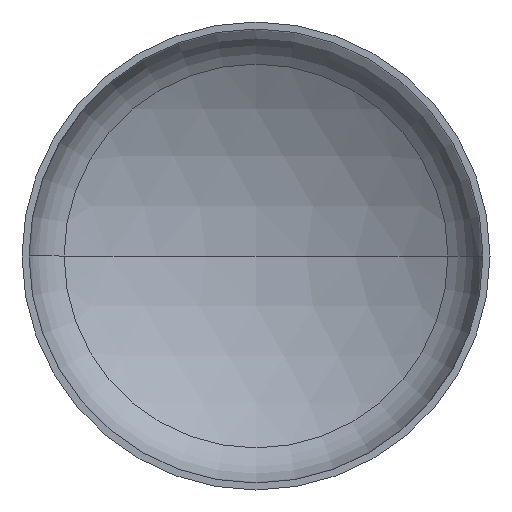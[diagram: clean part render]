
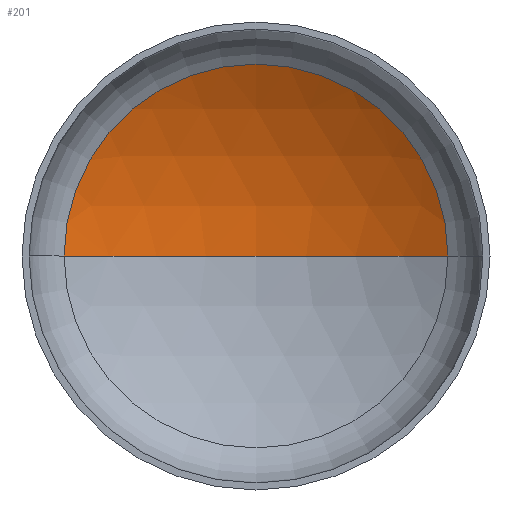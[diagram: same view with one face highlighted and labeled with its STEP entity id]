
A CAD part, front view. The second image highlights one B-rep face of the part: STEP entity #201.
In plain terms, the highlighted spherical face has radius 6400 mm.
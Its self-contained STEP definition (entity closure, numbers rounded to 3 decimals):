
#6 = VERTEX_POINT ( 'NONE', #253 ) ;
#22 = ORIENTED_EDGE ( 'NONE', *, *, #106, .T. ) ;
#24 = AXIS2_PLACEMENT_3D ( 'NONE', #267, #238, #44 ) ;
#38 = VERTEX_POINT ( 'NONE', #232 ) ;
#43 = AXIS2_PLACEMENT_3D ( 'NONE', #260, #280, #345 ) ;
#44 = DIRECTION ( 'NONE',  ( -1., 0., 0. ) ) ;
#45 = AXIS2_PLACEMENT_3D ( 'NONE', #203, #285, #76 ) ;
#53 = AXIS2_PLACEMENT_3D ( 'NONE', #213, #210, #212 ) ;
#71 = ORIENTED_EDGE ( 'NONE', *, *, #108, .F. ) ;
#76 = DIRECTION ( 'NONE',  ( -1., 0., 0. ) ) ;
#81 = VERTEX_POINT ( 'NONE', #233 ) ;
#103 = EDGE_CURVE ( 'NONE', #6, #38, #310, .T. ) ;
#106 = EDGE_CURVE ( 'NONE', #81, #6, #249, .T. ) ;
#108 = EDGE_CURVE ( 'NONE', #81, #38, #182, .T. ) ;
#139 = EDGE_LOOP ( 'NONE', ( #71, #22, #331 ) ) ;
#182 = CIRCLE ( 'NONE', #43, 6400. ) ;
#201 = ADVANCED_FACE ( 'NONE', ( #350 ), #301, .F. ) ;
#203 = CARTESIAN_POINT ( 'NONE',  ( 0., -4364.189, 0. ) ) ;
#210 = DIRECTION ( 'NONE',  ( 0., -1., 0. ) ) ;
#212 = DIRECTION ( 'NONE',  ( 1., 0., 0. ) ) ;
#213 = CARTESIAN_POINT ( 'NONE',  ( 0., 1131.132, 0. ) ) ;
#232 = CARTESIAN_POINT ( 'NONE',  ( -3280.464, 1131.132, 0. ) ) ;
#233 = CARTESIAN_POINT ( 'NONE',  ( 0., 2035.811, 0. ) ) ;
#238 = DIRECTION ( 'NONE',  ( 0., 0., -1. ) ) ;
#249 = CIRCLE ( 'NONE', #45, 6400. ) ;
#253 = CARTESIAN_POINT ( 'NONE',  ( 3280.464, 1131.132, 0. ) ) ;
#260 = CARTESIAN_POINT ( 'NONE',  ( 0., -4364.189, 0. ) ) ;
#267 = CARTESIAN_POINT ( 'NONE',  ( 0., -4364.189, 0. ) ) ;
#280 = DIRECTION ( 'NONE',  ( 0., 0., 1. ) ) ;
#285 = DIRECTION ( 'NONE',  ( 0., 0., -1. ) ) ;
#301 = SPHERICAL_SURFACE ( 'NONE', #24, 6400. ) ;
#310 = CIRCLE ( 'NONE', #53, 3280.464 ) ;
#331 = ORIENTED_EDGE ( 'NONE', *, *, #103, .T. ) ;
#345 = DIRECTION ( 'NONE',  ( 1., 0., 0. ) ) ;
#350 = FACE_OUTER_BOUND ( 'NONE', #139, .T. ) ;
